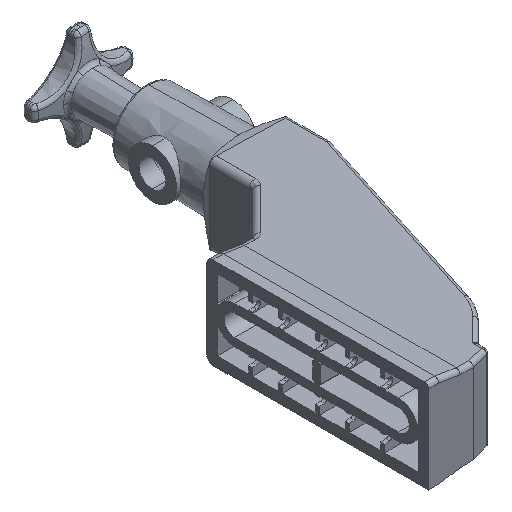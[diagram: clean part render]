
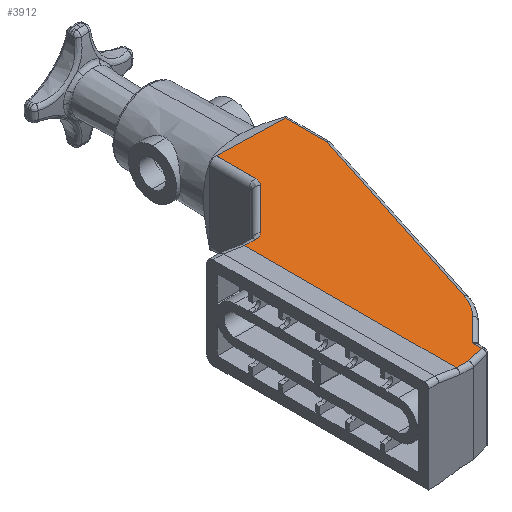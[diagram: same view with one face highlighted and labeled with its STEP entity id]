
A CAD part, isometric view. The second image highlights one B-rep face of the part: STEP entity #3912.
In plain terms, the highlighted planar face has unit normal (0.026, 0, 1).
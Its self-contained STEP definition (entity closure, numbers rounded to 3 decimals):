
#64 = CARTESIAN_POINT ( 'NONE',  ( 4.071, 50., 20.006 ) ) ;
#70 = CARTESIAN_POINT ( 'NONE',  ( 6.776, 73.5, 19.935 ) ) ;
#292 = CARTESIAN_POINT ( 'NONE',  ( 5.829, 54.243, 19.96 ) ) ;
#947 = VECTOR ( 'NONE', #18205, 1000. ) ;
#1207 = ORIENTED_EDGE ( 'NONE', *, *, #13801, .T. ) ;
#1370 = CARTESIAN_POINT ( 'NONE',  ( -7.332, -65.805, 20.305 ) ) ;
#1636 = VERTEX_POINT ( 'NONE', #6593 ) ;
#2227 = CARTESIAN_POINT ( 'NONE',  ( 7.231, -46.927, 19.923 ) ) ;
#2357 = CARTESIAN_POINT ( 'NONE',  ( 3.321, -54.788, 20.026 ) ) ;
#2399 = CARTESIAN_POINT ( 'NONE',  ( 6.776, 27.5, 19.935 ) ) ;
#3676 = ORIENTED_EDGE ( 'NONE', *, *, #35871, .T. ) ;
#3833 = LINE ( 'NONE', #16512, #15801 ) ;
#3912 = ADVANCED_FACE ( 'NONE', ( #22051 ), #10569, .T. ) ;
#3941 = DIRECTION ( 'NONE',  ( -0.966, -0.259, 0.025 ) ) ;
#4066 = VERTEX_POINT ( 'NONE', #292 ) ;
#4082 = CARTESIAN_POINT ( 'NONE',  ( -26.25, -76.5, 20.8 ) ) ;
#4162 = CARTESIAN_POINT ( 'NONE',  ( -3.465, -61.939, 20.203 ) ) ;
#4194 = LINE ( 'NONE', #13568, #20914 ) ;
#4294 = CARTESIAN_POINT ( 'NONE',  ( 0.401, -58.073, 20.102 ) ) ;
#4359 = B_SPLINE_CURVE_WITH_KNOTS ( 'NONE', 3,
 ( #36084, #25740, #34275, #25241 ),
 .UNSPECIFIED., .F., .F.,
 ( 4, 4 ),
 ( 0., 1. ),
 .UNSPECIFIED. ) ;
#5085 = CARTESIAN_POINT ( 'NONE',  ( -20.112, 27.503, 20.639 ) ) ;
#5123 = CARTESIAN_POINT ( 'NONE',  ( 0.401, -58.073, 20.102 ) ) ;
#5164 = LINE ( 'NONE', #29657, #31354 ) ;
#5883 = CARTESIAN_POINT ( 'NONE',  ( 7.231, -46.927, 19.923 ) ) ;
#6176 = CARTESIAN_POINT ( 'NONE',  ( 5.825, 53.439, 19.96 ) ) ;
#6357 = ORIENTED_EDGE ( 'NONE', *, *, #37920, .T. ) ;
#6593 = CARTESIAN_POINT ( 'NONE',  ( -11.198, -74.152, 20.406 ) ) ;
#6969 = ORIENTED_EDGE ( 'NONE', *, *, #9059, .F. ) ;
#7195 = ORIENTED_EDGE ( 'NONE', *, *, #13354, .T. ) ;
#7483 = ORIENTED_EDGE ( 'NONE', *, *, #12368, .F. ) ;
#7511 = CARTESIAN_POINT ( 'NONE',  ( -11.198, -69.672, 20.406 ) ) ;
#7550 = VECTOR ( 'NONE', #36929, 1000. ) ;
#7790 = VECTOR ( 'NONE', #32756, 1000. ) ;
#7813 = ORIENTED_EDGE ( 'NONE', *, *, #8488, .T. ) ;
#8018 = CARTESIAN_POINT ( 'NONE',  ( -17.892, 28.258, 20.581 ) ) ;
#8232 = AXIS2_PLACEMENT_3D ( 'NONE', #14046, #37953, #31851 ) ;
#8488 = EDGE_CURVE ( 'NONE', #22064, #9585, #4194, .T. ) ;
#8658 = EDGE_CURVE ( 'NONE', #33159, #26240, #5164, .T. ) ;
#8930 = CARTESIAN_POINT ( 'NONE',  ( -20.914, 27.5, 20.66 ) ) ;
#9059 = EDGE_CURVE ( 'NONE', #10372, #1636, #31828, .T. ) ;
#9069 = ORIENTED_EDGE ( 'NONE', *, *, #33121, .T. ) ;
#9585 = VERTEX_POINT ( 'NONE', #30070 ) ;
#10090 = CARTESIAN_POINT ( 'NONE',  ( -22.057, -76.5, 20.69 ) ) ;
#10372 = VERTEX_POINT ( 'NONE', #33256 ) ;
#10569 = PLANE ( 'NONE',  #8232 ) ;
#10763 = VERTEX_POINT ( 'NONE', #38265 ) ;
#10937 = EDGE_LOOP ( 'NONE', ( #7483, #6969, #6357, #19079, #1207, #13651, #9069, #3676, #7195, #7813, #21049, #34105, #17323, #25136 ) ) ;
#11187 = CARTESIAN_POINT ( 'NONE',  ( 5.63, -51.021, 19.965 ) ) ;
#11250 = CARTESIAN_POINT ( 'NONE',  ( -16.671, 29.257, 20.549 ) ) ;
#11905 = B_SPLINE_CURVE_WITH_KNOTS ( 'NONE', 3,
 ( #30547, #6176, #27498, #30417, #18587, #64 ),
 .UNSPECIFIED., .F., .F.,
 ( 4, 2, 4 ),
 ( 0., 0.5, 1. ),
 .UNSPECIFIED. ) ;
#12368 = EDGE_CURVE ( 'NONE', #1636, #24386, #3833, .T. ) ;
#13354 = EDGE_CURVE ( 'NONE', #4066, #22064, #11905, .T. ) ;
#13568 = CARTESIAN_POINT ( 'NONE',  ( 4.071, 50., 20.006 ) ) ;
#13651 = ORIENTED_EDGE ( 'NONE', *, *, #18675, .T. ) ;
#13695 = CARTESIAN_POINT ( 'NONE',  ( -24.154, -76.5, 20.745 ) ) ;
#13801 = EDGE_CURVE ( 'NONE', #15668, #38539, #37119, .T. ) ;
#14046 = CARTESIAN_POINT ( 'NONE',  ( 6.776, -1.5, 19.935 ) ) ;
#14114 = CARTESIAN_POINT ( 'NONE',  ( 6.548, -49.028, 19.941 ) ) ;
#15668 = VERTEX_POINT ( 'NONE', #20741 ) ;
#15801 = VECTOR ( 'NONE', #3941, 1000. ) ;
#15917 = LINE ( 'NONE', #2399, #7790 ) ;
#16512 = CARTESIAN_POINT ( 'NONE',  ( -10.971, -74.091, 20.4 ) ) ;
#17323 = ORIENTED_EDGE ( 'NONE', *, *, #8658, .T. ) ;
#17391 = EDGE_CURVE ( 'NONE', #35388, #15668, #18069, .T. ) ;
#18069 = B_SPLINE_CURVE_WITH_KNOTS ( 'NONE', 3,
 ( #35649, #29394, #2357, #11187, #14114, #2227 ),
 .UNSPECIFIED., .F., .F.,
 ( 4, 2, 4 ),
 ( 0., 0.5, 1. ),
 .UNSPECIFIED. ) ;
#18205 = DIRECTION ( 'NONE',  ( -1., 0., 0.026 ) ) ;
#18587 = CARTESIAN_POINT ( 'NONE',  ( 4.636, 50.57, 19.991 ) ) ;
#18675 = EDGE_CURVE ( 'NONE', #38539, #10763, #37553, .T. ) ;
#19079 = ORIENTED_EDGE ( 'NONE', *, *, #17391, .T. ) ;
#19394 = EDGE_CURVE ( 'NONE', #24386, #26240, #33943, .T. ) ;
#19510 = VERTEX_POINT ( 'NONE', #32567 ) ;
#20741 = CARTESIAN_POINT ( 'NONE',  ( 7.231, -46.927, 19.923 ) ) ;
#20914 = VECTOR ( 'NONE', #34334, 1000. ) ;
#21049 = ORIENTED_EDGE ( 'NONE', *, *, #38738, .T. ) ;
#22051 = FACE_OUTER_BOUND ( 'NONE', #10937, .T. ) ;
#22064 = VERTEX_POINT ( 'NONE', #38251 ) ;
#22859 = VECTOR ( 'NONE', #38778, 1000. ) ;
#22895 = LINE ( 'NONE', #70, #947 ) ;
#23254 = VECTOR ( 'NONE', #26710, 1000. ) ;
#24386 = VERTEX_POINT ( 'NONE', #27545 ) ;
#25136 = ORIENTED_EDGE ( 'NONE', *, *, #19394, .F. ) ;
#25241 = CARTESIAN_POINT ( 'NONE',  ( 5.829, 54.243, 19.96 ) ) ;
#25740 = CARTESIAN_POINT ( 'NONE',  ( 5.829, 67.081, 19.96 ) ) ;
#26139 = CARTESIAN_POINT ( 'NONE',  ( -19.347, 27.656, 20.619 ) ) ;
#26240 = VERTEX_POINT ( 'NONE', #35243 ) ;
#26710 = DIRECTION ( 'NONE',  ( 0., -1., 0. ) ) ;
#27498 = CARTESIAN_POINT ( 'NONE',  ( 5.672, 52.673, 19.964 ) ) ;
#27545 = CARTESIAN_POINT ( 'NONE',  ( -19.961, -76.5, 20.635 ) ) ;
#28764 = B_SPLINE_CURVE_WITH_KNOTS ( 'NONE', 3,
 ( #7511, #1370, #4162, #4294 ),
 .UNSPECIFIED., .F., .F.,
 ( 4, 4 ),
 ( 0., 1. ),
 .UNSPECIFIED. ) ;
#28827 = VERTEX_POINT ( 'NONE', #8930 ) ;
#29229 = CARTESIAN_POINT ( 'NONE',  ( 39.802, 53.317, 19.07 ) ) ;
#29394 = CARTESIAN_POINT ( 'NONE',  ( 1.963, -56.511, 20.061 ) ) ;
#29595 = CARTESIAN_POINT ( 'NONE',  ( -17.242, 28.692, 20.564 ) ) ;
#29657 = CARTESIAN_POINT ( 'NONE',  ( -26.25, -1.5, 20.8 ) ) ;
#30070 = CARTESIAN_POINT ( 'NONE',  ( -16.671, 29.257, 20.549 ) ) ;
#30417 = CARTESIAN_POINT ( 'NONE',  ( 5.069, 51.219, 19.98 ) ) ;
#30547 = CARTESIAN_POINT ( 'NONE',  ( 5.829, 54.243, 19.96 ) ) ;
#30554 = CARTESIAN_POINT ( 'NONE',  ( -26.25, 27.5, 20.8 ) ) ;
#30555 = CARTESIAN_POINT ( 'NONE',  ( 39.802, -1.5, 19.07 ) ) ;
#30657 = EDGE_CURVE ( 'NONE', #28827, #33159, #15917, .T. ) ;
#31354 = VECTOR ( 'NONE', #38703, 1000. ) ;
#31828 = LINE ( 'NONE', #39189, #23254 ) ;
#31851 = DIRECTION ( 'NONE',  ( 1., 0., -0.026 ) ) ;
#32567 = CARTESIAN_POINT ( 'NONE',  ( 5.829, 73.5, 19.96 ) ) ;
#32756 = DIRECTION ( 'NONE',  ( -1., 0., 0.026 ) ) ;
#33121 = EDGE_CURVE ( 'NONE', #10763, #19510, #22895, .T. ) ;
#33159 = VERTEX_POINT ( 'NONE', #30554 ) ;
#33256 = CARTESIAN_POINT ( 'NONE',  ( -11.198, -69.672, 20.406 ) ) ;
#33943 = B_SPLINE_CURVE_WITH_KNOTS ( 'NONE', 3,
 ( #34583, #10090, #13695, #4082 ),
 .UNSPECIFIED., .F., .F.,
 ( 4, 4 ),
 ( 0., 1. ),
 .UNSPECIFIED. ) ;
#34105 = ORIENTED_EDGE ( 'NONE', *, *, #30657, .T. ) ;
#34275 = CARTESIAN_POINT ( 'NONE',  ( 5.829, 60.662, 19.96 ) ) ;
#34334 = DIRECTION ( 'NONE',  ( -0.707, -0.707, 0.019 ) ) ;
#34583 = CARTESIAN_POINT ( 'NONE',  ( -19.961, -76.5, 20.635 ) ) ;
#35243 = CARTESIAN_POINT ( 'NONE',  ( -26.25, -76.5, 20.8 ) ) ;
#35388 = VERTEX_POINT ( 'NONE', #5123 ) ;
#35649 = CARTESIAN_POINT ( 'NONE',  ( 0.401, -58.073, 20.102 ) ) ;
#35871 = EDGE_CURVE ( 'NONE', #19510, #4066, #4359, .T. ) ;
#36084 = CARTESIAN_POINT ( 'NONE',  ( 5.829, 73.5, 19.96 ) ) ;
#36929 = DIRECTION ( 'NONE',  ( 0., 1., 0. ) ) ;
#37119 = LINE ( 'NONE', #5883, #22859 ) ;
#37553 = LINE ( 'NONE', #30555, #7550 ) ;
#37920 = EDGE_CURVE ( 'NONE', #10372, #35388, #28764, .T. ) ;
#37953 = DIRECTION ( 'NONE',  ( 0.026, 0., 1. ) ) ;
#38251 = CARTESIAN_POINT ( 'NONE',  ( 4.071, 50., 20.006 ) ) ;
#38265 = CARTESIAN_POINT ( 'NONE',  ( 39.802, 73.5, 19.07 ) ) ;
#38496 = CARTESIAN_POINT ( 'NONE',  ( -20.914, 27.5, 20.66 ) ) ;
#38539 = VERTEX_POINT ( 'NONE', #29229 ) ;
#38703 = DIRECTION ( 'NONE',  ( 0., -1., 0. ) ) ;
#38738 = EDGE_CURVE ( 'NONE', #9585, #28827, #39484, .T. ) ;
#38778 = DIRECTION ( 'NONE',  ( 0.309, 0.951, -0.008 ) ) ;
#39189 = CARTESIAN_POINT ( 'NONE',  ( -11.198, -69.437, 20.406 ) ) ;
#39484 = B_SPLINE_CURVE_WITH_KNOTS ( 'NONE', 3,
 ( #11250, #29595, #8018, #26139, #5085, #38496 ),
 .UNSPECIFIED., .F., .F.,
 ( 4, 2, 4 ),
 ( 0., 0.5, 1. ),
 .UNSPECIFIED. ) ;
